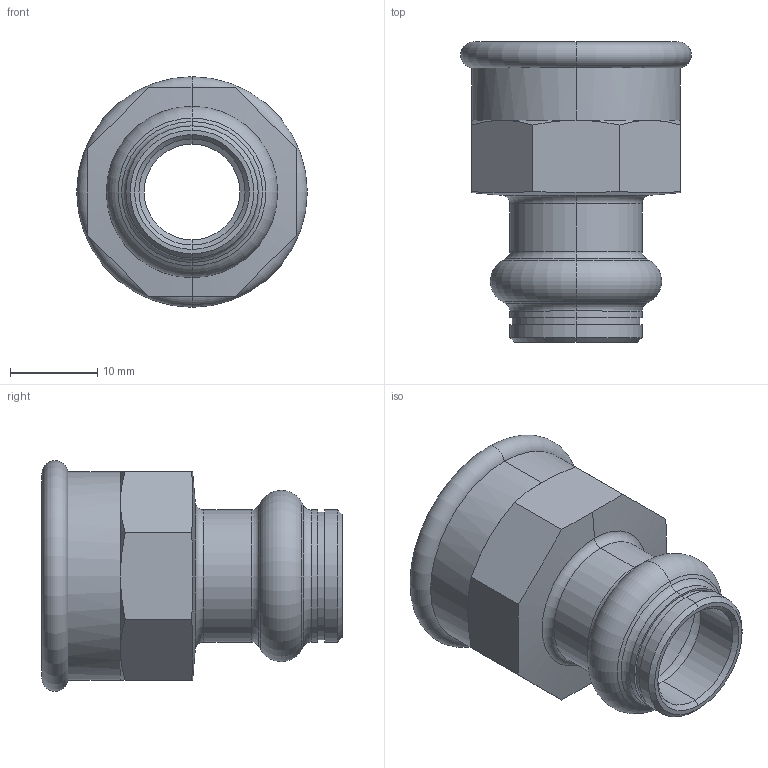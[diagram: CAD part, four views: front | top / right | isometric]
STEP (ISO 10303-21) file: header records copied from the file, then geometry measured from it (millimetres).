
FILE_DESCRIPTION (( 'STEP AP203' ), '1' );
FILE_NAME ('SP4270G Ø12 1-2.STEP', '2017-04-26T07:59:35', ( '' ), ( '' ), 'SwSTEP 2.0', 'SolidWorks 2016', '' );
FILE_SCHEMA (( 'CONFIG_CONTROL_DESIGN' ));
Length unit declared in the file: millimetre
Products named in the file (1): SP4270G Ø12 1-2
Bounding box: 26.5 x 34.5 x 26.5 mm (x, y, z)
Volume: 5255 mm3; surface area: 4870.6 mm2
Topology: 1 solids, 1 shells, 68 faces, 144 edges, 82 vertices
Faces by surface type: cone 24, cylinder 18, plane 14, torus 12
Entity records: 1955 total; most frequent: CARTESIAN_POINT 413, DIRECTION 332, ORIENTED_EDGE 288, AXIS2_PLACEMENT_3D 145, EDGE_CURVE 144, VERTEX_POINT 82, CIRCLE 76, EDGE_LOOP 74
